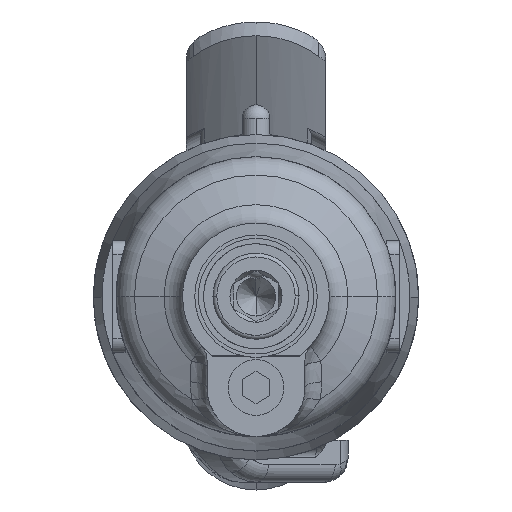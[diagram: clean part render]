
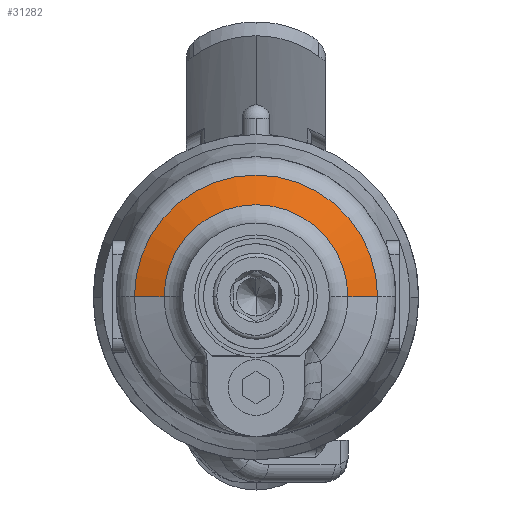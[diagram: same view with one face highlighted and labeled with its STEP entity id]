
A CAD part, top view. The second image highlights one B-rep face of the part: STEP entity #31282.
In plain terms, the highlighted conical face has half-angle 70 degrees and reference radius 20 mm.
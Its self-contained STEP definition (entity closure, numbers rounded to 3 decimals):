
#21864 = CIRCLE ( 'NONE', #21883, 17.368 ) ;
#21883 = AXIS2_PLACEMENT_3D ( 'NONE', #21928, #21927, #21917 ) ;
#21885 = CARTESIAN_POINT ( 'NONE',  ( -17.368, 0., -11.5 ) ) ;
#21886 = CARTESIAN_POINT ( 'NONE',  ( 17.368, 0., -11.5 ) ) ;
#21917 = DIRECTION ( 'NONE',  ( 1., 0., 0. ) ) ;
#21927 = DIRECTION ( 'NONE',  ( 0., 0., 1. ) ) ;
#21928 = CARTESIAN_POINT ( 'NONE',  ( 0., 0., -11.5 ) ) ;
#22683 = CARTESIAN_POINT ( 'NONE',  ( -13.132, 0., -9.958 ) ) ;
#22841 = CARTESIAN_POINT ( 'NONE',  ( 0., 0., -9.958 ) ) ;
#22842 = AXIS2_PLACEMENT_3D ( 'NONE', #22841, #22907, #22906 ) ;
#22843 = CIRCLE ( 'NONE', #22842, 13.132 ) ;
#22900 = CARTESIAN_POINT ( 'NONE',  ( 13.132, 0., -9.958 ) ) ;
#22906 = DIRECTION ( 'NONE',  ( -1., 0., 0. ) ) ;
#22907 = DIRECTION ( 'NONE',  ( 0., 0., -1. ) ) ;
#22977 = DIRECTION ( 'NONE',  ( -1., 0., 0. ) ) ;
#22978 = DIRECTION ( 'NONE',  ( 0., 0., -1. ) ) ;
#22979 = CARTESIAN_POINT ( 'NONE',  ( 0., 0., -12.458 ) ) ;
#22980 = AXIS2_PLACEMENT_3D ( 'NONE', #22979, #22978, #22977 ) ;
#22983 = CONICAL_SURFACE ( 'NONE', #22980, 20., 1.222 ) ;
#22984 = FACE_OUTER_BOUND ( 'NONE', #31509, .T. ) ;
#23015 = DIRECTION ( 'NONE',  ( -0.94, 0., -0.342 ) ) ;
#23016 = VECTOR ( 'NONE', #23015, 1000. ) ;
#23017 = CARTESIAN_POINT ( 'NONE',  ( -20., 0., -12.458 ) ) ;
#23018 = LINE ( 'NONE', #23017, #23016 ) ;
#23061 = DIRECTION ( 'NONE',  ( 0.94, 0., -0.342 ) ) ;
#23062 = VECTOR ( 'NONE', #23061, 1000. ) ;
#23063 = CARTESIAN_POINT ( 'NONE',  ( 20., 0., -12.458 ) ) ;
#23064 = LINE ( 'NONE', #23063, #23062 ) ;
#24500 = VERTEX_POINT ( 'NONE', #21886 ) ;
#24501 = VERTEX_POINT ( 'NONE', #21885 ) ;
#24505 = EDGE_CURVE ( 'NONE', #24500, #24501, #21864, .T. ) ;
#24895 = VERTEX_POINT ( 'NONE', #22683 ) ;
#27712 = EDGE_CURVE ( 'NONE', #24895, #28031, #22843, .T. ) ;
#28031 = VERTEX_POINT ( 'NONE', #22900 ) ;
#31282 = ADVANCED_FACE ( 'NONE', ( #22984 ), #22983, .T. ) ;
#31509 = EDGE_LOOP ( 'NONE', ( #33163, #33166, #32783, #32784 ) ) ;
#32542 = EDGE_CURVE ( 'NONE', #24895, #24501, #23018, .T. ) ;
#32783 = ORIENTED_EDGE ( 'NONE', *, *, #24505, .T. ) ;
#32784 = ORIENTED_EDGE ( 'NONE', *, *, #32542, .F. ) ;
#33130 = EDGE_CURVE ( 'NONE', #28031, #24500, #23064, .T. ) ;
#33163 = ORIENTED_EDGE ( 'NONE', *, *, #27712, .T. ) ;
#33166 = ORIENTED_EDGE ( 'NONE', *, *, #33130, .T. ) ;
